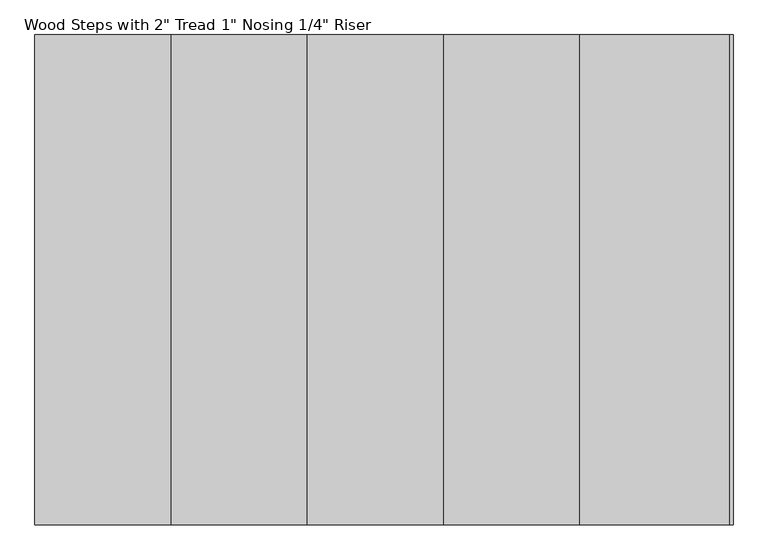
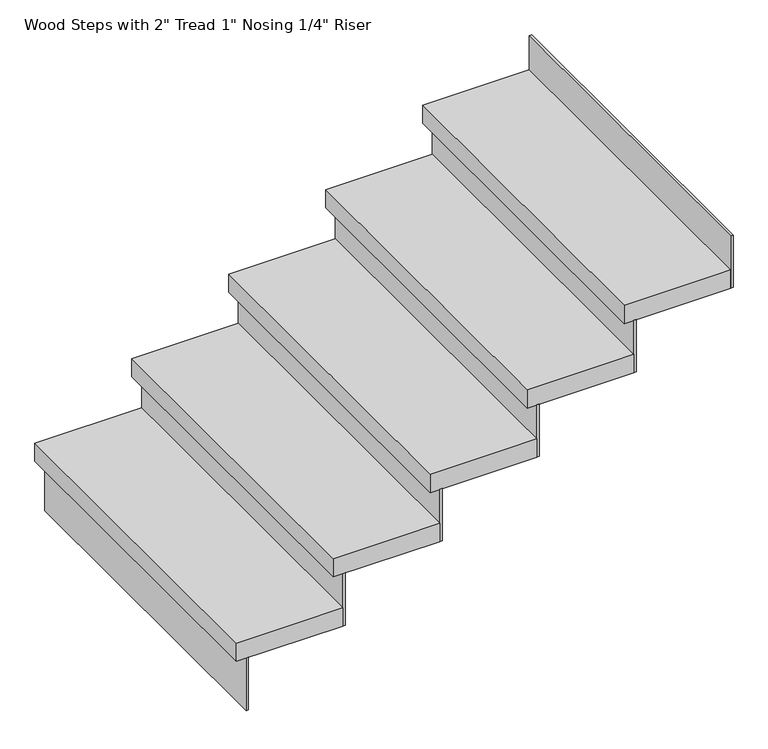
"""IFC4 building model written with IfcOpenShell, lengths in millimetres: stair flight geometry."""

from ifc_helpers import new_model, si_unit, frame, origin, place, context, project, spatial, polyline, outline, extrude, source, transform, mapped, element, save


def stair_flight_4736928c(model_context):
    return source(origin(), model_context, "Body", "SweptSolid", [
        extrude(outline(polyline([(-19058.5186345, 31477.9025717), (-19064.8686345, 31477.9025717), (-19064.8686345, 32392.3025717), (-19058.5186345, 32392.3025717), (-19058.5186345, 31477.9025717)])), frame((0.0, 0.0, 2126.3428571), z_axis=(0.0, 0.0, 1.0), x_axis=(1.0, 0.0, 0.0)), (0.0, 0.0, 1.0), 145.1428571),
        extrude(outline(polyline([(-18810.8686345, 32392.3025717), (-18810.8686345, 31477.9025717), (-19090.2686345, 31477.9025717), (-19090.2686345, 32392.3025717), (-18810.8686345, 32392.3025717)])), frame((0.0, 0.0, 2271.4857143), z_axis=(0.0, 0.0, 1.0), x_axis=(1.0, 0.0, 0.0)), (0.0, 0.0, 1.0), 50.8),
        extrude(outline(polyline([(-18804.5186345, 31477.9025717), (-18810.8686345, 31477.9025717), (-18810.8686345, 32392.3025717), (-18804.5186345, 32392.3025717), (-18804.5186345, 31477.9025717)])), frame((0.0, 0.0, 2271.4857143), z_axis=(0.0, 0.0, 1.0), x_axis=(1.0, 0.0, 0.0)), (0.0, 0.0, 1.0), 145.1428571),
        extrude(outline(polyline([(-18556.8686345, 32392.3025717), (-18556.8686345, 31477.9025717), (-18836.2686345, 31477.9025717), (-18836.2686345, 32392.3025717), (-18556.8686345, 32392.3025717)])), frame((0.0, 0.0, 2416.6285714), z_axis=(0.0, 0.0, 1.0), x_axis=(1.0, 0.0, 0.0)), (0.0, 0.0, 1.0), 50.8),
        extrude(outline(polyline([(-18550.5186345, 31477.9025717), (-18556.8686345, 31477.9025717), (-18556.8686345, 32392.3025717), (-18550.5186345, 32392.3025717), (-18550.5186345, 31477.9025717)])), frame((0.0, 0.0, 2416.6285714), z_axis=(0.0, 0.0, 1.0), x_axis=(1.0, 0.0, 0.0)), (0.0, 0.0, 1.0), 145.1428571),
        extrude(outline(polyline([(-18302.8686345, 32392.3025717), (-18302.8686345, 31477.9025717), (-18582.2686345, 31477.9025717), (-18582.2686345, 32392.3025717), (-18302.8686345, 32392.3025717)])), frame((0.0, 0.0, 2561.7714286), z_axis=(0.0, 0.0, 1.0), x_axis=(1.0, 0.0, 0.0)), (0.0, 0.0, 1.0), 50.8),
        extrude(outline(polyline([(-18296.5186345, 31477.9025717), (-18302.8686345, 31477.9025717), (-18302.8686345, 32392.3025717), (-18296.5186345, 32392.3025717), (-18296.5186345, 31477.9025717)])), frame((0.0, 0.0, 2561.7714286), z_axis=(0.0, 0.0, 1.0), x_axis=(1.0, 0.0, 0.0)), (0.0, 0.0, 1.0), 145.1428571),
        extrude(outline(polyline([(-18048.8686345, 32392.3025717), (-18048.8686345, 31477.9025717), (-18328.2686345, 31477.9025717), (-18328.2686345, 32392.3025717), (-18048.8686345, 32392.3025717)])), frame((0.0, 0.0, 2706.9142857), z_axis=(0.0, 0.0, 1.0), x_axis=(1.0, 0.0, 0.0)), (0.0, 0.0, 1.0), 50.8),
        extrude(outline(polyline([(-18042.5186345, 31477.9025717), (-18048.8686345, 31477.9025717), (-18048.8686345, 32392.3025717), (-18042.5186345, 32392.3025717), (-18042.5186345, 31477.9025717)])), frame((0.0, 0.0, 2706.9142857), z_axis=(0.0, 0.0, 1.0), x_axis=(1.0, 0.0, 0.0)), (0.0, 0.0, 1.0), 145.1428571),
        extrude(outline(polyline([(-17788.5186345, 31477.9025717), (-17794.8686345, 31477.9025717), (-17794.8686345, 32392.3025717), (-17788.5186345, 32392.3025717), (-17788.5186345, 31477.9025717)])), frame((0.0, 0.0, 2852.0571429), z_axis=(0.0, 0.0, 1.0), x_axis=(1.0, 0.0, 0.0)), (0.0, 0.0, 1.0), 145.1428571),
        extrude(outline(polyline([(-17794.8686345, 32392.3025717), (-17794.8686345, 31477.9025717), (-18074.2686345, 31477.9025717), (-18074.2686345, 32392.3025717), (-17794.8686345, 32392.3025717)])), frame((0.0, 0.0, 2852.0571429), z_axis=(0.0, 0.0, 1.0), x_axis=(1.0, 0.0, 0.0)), (0.0, 0.0, 1.0), 50.8),
    ])


if __name__ == "__main__":
    model = new_model("IFC4")
    model_context = context("Model", 3, world=origin())
    ifc_project = project(units=[si_unit("LENGTHUNIT", "METRE", prefix="MILLI")], contexts=[model_context])
    site = spatial("IfcSite", under=ifc_project)
    building = spatial("IfcBuilding", under=site)
    placement = place(None, origin())
    stair_flight_shape = stair_flight_4736928c(model_context)
    element("IfcStairFlight", 1, ObjectType="Wood Steps with 2\" Tread 1\" Nosing 1/4\" Riser", at=placement, inside=building, context=model_context, shape_type="MappedRepresentation", body=[
        mapped(stair_flight_shape, transform((0.0, 0.0, 0.0), x_axis=(1.0, 0.0, 0.0), y_axis=(0.0, 1.0, 0.0), z_axis=(0.0, 0.0, 1.0))),
    ])
    save(model, "model.ifc")
